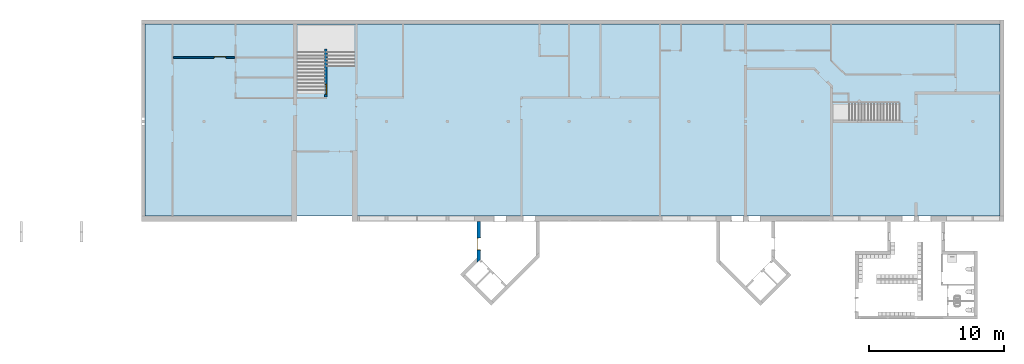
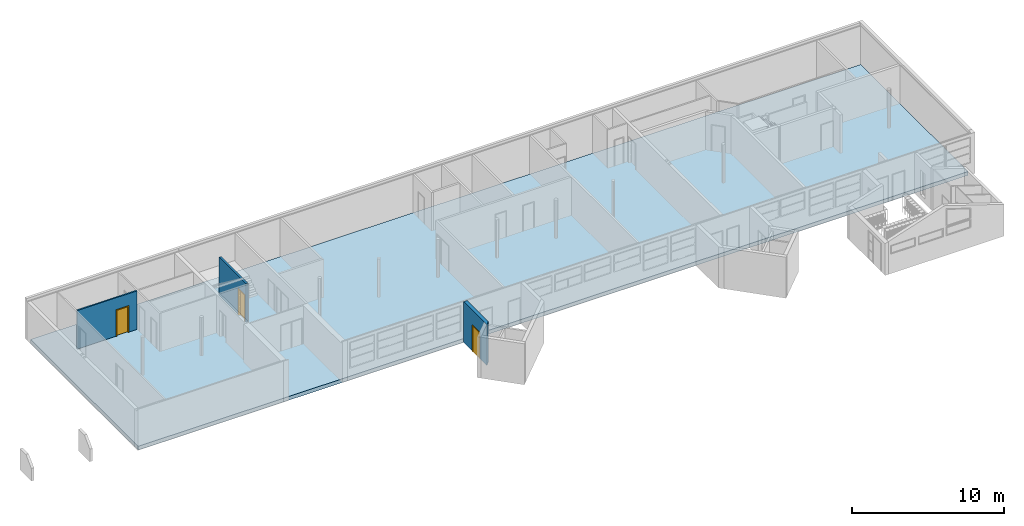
# One storey, part 1 of 25: 3 doors, 3 walls, 1 slab, 3 openings.
"""IFC2X3 building model written with IfcOpenShell, lengths in millimetres."""

from ifc_helpers import new_model, entity, si_unit, converted_unit, derived_unit, money_unit, direction, frame, origin_with_axes, place, context, subcontext, project, spatial, faceted_brep, source, transform, mapped, material, type_object, element, fill, save


model = new_model("IFC2X3")

# Units and contexts
model_context = context("Model", 3, precision=0.01, world=origin_with_axes(), true_north=direction((0.0, 1.0)))
body_context = subcontext(model_context, "Body", "Model", "MODEL_VIEW")
ifc_project = project(units=[si_unit("LENGTHUNIT", "METRE", prefix="MILLI"), si_unit("AREAUNIT", "SQUARE_METRE"), si_unit("VOLUMEUNIT", "CUBIC_METRE"), converted_unit("PLANEANGLEUNIT", "DEGREE", entity("IfcPlaneAngleMeasure", 0.0174532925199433), si_unit("PLANEANGLEUNIT", "RADIAN"), dimensions=[0, 0, 0, 0, 0, 0, 0]), money_unit("USD"), converted_unit("TIMEUNIT", "Year", entity("IfcTimeMeasure", 31557600.0), si_unit("TIMEUNIT", "SECOND"), dimensions=[0, 0, 1, 0, 0, 0, 0]), si_unit("MASSUNIT", "GRAM", prefix="KILO"), si_unit("THERMODYNAMICTEMPERATUREUNIT", "DEGREE_CELSIUS"), si_unit("LUMINOUSINTENSITYUNIT", "LUMEN"), si_unit("ENERGYUNIT", "JOULE", prefix="MEGA"), derived_unit("THERMALCONDUCTANCEUNIT", [(si_unit("POWERUNIT", "WATT"), 1), (si_unit("LENGTHUNIT", "METRE"), -1), (si_unit("THERMODYNAMICTEMPERATUREUNIT", "KELVIN"), -1)]), derived_unit("SPECIFICHEATCAPACITYUNIT", [(si_unit("ENERGYUNIT", "JOULE"), 1), (si_unit("MASSUNIT", "GRAM", prefix="KILO"), -1), (si_unit("THERMODYNAMICTEMPERATUREUNIT", "KELVIN"), -1)]), derived_unit("MASSDENSITYUNIT", [(si_unit("MASSUNIT", "GRAM", prefix="KILO"), 1), (si_unit("VOLUMEUNIT", "CUBIC_METRE"), -1)])], contexts=[model_context])

# Site, building, storey
site_placement = place(None, origin_with_axes())
site = spatial("IfcSite", under=ifc_project, at=site_placement, Name="Site", CompositionType="ELEMENT")
building_placement = place(site_placement, origin_with_axes())
building = spatial("IfcBuilding", under=site, at=building_placement, Name="Building", CompositionType="ELEMENT")
storey_placement = place(building_placement, origin_with_axes())
storey = spatial("IfcBuildingStorey", under=building, at=storey_placement, Name="U ETG", CompositionType="ELEMENT", Elevation=0.0)

# Slab
ifc_material_1 = material(Name="Concrete - Structural")
slab_type = type_object("IfcSlabType", Name="Concrete - Structural 300", PredefinedType="NOTDEFINED")
slab_placement = place(storey_placement, frame((9130.00000000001, 7499.570929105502, 0.0), z_axis=(0.0, 0.0, 1.0), x_axis=(1.0, 0.0, 0.0)))
element("IfcSlab", 1, at=slab_placement, inside=storey, type_object=slab_type, material=ifc_material_1, Name="SLA - 001", PredefinedType="NOTDEFINED", context=body_context, shape_type="Brep", body=[
    faceted_brep([(0.0, 0.0, 0.0), (0.0, 0.0, -300.0), (63219.99999999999, 0.0, -300.0), (63219.99999999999, 0.0, 0.0), (0.0, 14200.4290708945, 0.0), (0.0, 14200.4290708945, -300.0), (63219.99999999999, 14200.4290708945, -300.0), (63219.99999999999, 14200.4290708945, 0.0)], [[[0, 1, 2, 3]], [[4, 5, 1, 0]], [[2, 1, 5, 6]], [[3, 2, 6, 7]], [[4, 0, 3, 7]], [[7, 6, 5, 4]]]),
])

# Wall, opening, door
ifc_material_2 = material(Name="GENERIC - INTERNAL FILLER")
wall_type_1 = type_object("IfcWallType", Name="GENERIC - INTERNAL FILLER 110", PredefinedType="NOTDEFINED")
wall_1_placement = place(storey_placement, frame((11130.0, 19300.0, 0.0), z_axis=(0.0, 0.0, 1.0), x_axis=(1.0, 0.0, 0.0)))
wall_1 = element("IfcWall", 2, at=wall_1_placement, inside=storey, type_object=wall_type_1, material=ifc_material_2, Name="SW - 001", context=body_context, shape_type="Brep", body=[
    faceted_brep([(3110.000000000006, 0.0, 2100.0), (3110.000000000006, 0.0, 0.0), (109.9999999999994, 0.0, 0.0), (109.9999999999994, 0.0, 3100.0), (4660.000000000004, 0.0, 3100.0), (4660.000000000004, 0.0, 0.0), (4010.000000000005, 0.0, 0.0), (4010.000000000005, 0.0, 2100.0), (3110.000000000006, -109.9999999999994, 2100.0), (3110.000000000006, -109.9999999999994, 0.0), (109.9999999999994, -109.9999999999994, 0.0), (109.9999999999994, -109.9999999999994, 3100.0), (4660.000000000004, -109.9999999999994, 3100.0), (4660.000000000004, -109.9999999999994, 0.0), (4010.000000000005, -109.9999999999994, 0.0), (4010.000000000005, -109.9999999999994, 2100.0)], [[[0, 1, 2, 3, 4, 5, 6, 7]], [[1, 0, 8, 9]], [[1, 9, 10, 2]], [[11, 3, 2, 10]], [[12, 4, 3, 11]], [[5, 4, 12, 13]], [[14, 6, 5, 13]], [[7, 6, 14, 15]], [[0, 7, 15, 8]], [[15, 14, 13, 12, 11, 10, 9, 8]]]),
])
opening_1_placement = place(wall_1_placement, frame((3560.000000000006, 0.0, 0.0), z_axis=(0.0, 0.0, 1.0), x_axis=(1.0, 0.0, 0.0)))
opening_1 = element("IfcOpeningElement", 3, at=opening_1_placement, cuts=wall_1, Name="DOO - 002", context=body_context, shape_type="Brep", body=[
    faceted_brep([(-449.9999999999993, 1.000000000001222, 2100.0), (449.9999999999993, 1.000000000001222, 2100.0), (449.9999999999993, 1.000000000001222, 0.0), (-449.9999999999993, 1.000000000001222, 0.0), (-487.0000000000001, 1.000000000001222, 0.0), (-487.0000000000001, 1.000000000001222, 2137.0), (487.0000000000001, 1.000000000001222, 2137.0), (487.0000000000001, 1.000000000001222, 0.0), (-449.9999999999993, 0.0, 0.0), (449.9999999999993, 0.0, 0.0), (449.9999999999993, -109.9999999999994, 0.0), (449.9999999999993, -111.0000000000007, 0.0), (-449.9999999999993, -111.0000000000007, 0.0), (-449.9999999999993, -109.9999999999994, 0.0), (-487.0000000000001, 0.0, 0.0), (-487.0000000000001, 0.0, 2137.0), (487.0000000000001, 0.0, 2137.0), (487.0000000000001, 0.0, 0.0), (449.9999999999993, 0.0, 2100.0), (449.9999999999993, -109.9999999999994, 2100.0), (487.0000000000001, -109.9999999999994, 0.0), (487.0000000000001, -111.0000000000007, 0.0), (487.0000000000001, -111.0000000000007, 2137.0), (-487.0000000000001, -111.0000000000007, 2137.0), (-487.0000000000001, -111.0000000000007, 0.0), (-487.0000000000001, -109.9999999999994, 0.0), (-449.9999999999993, 0.0, 2100.0), (-449.9999999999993, -109.9999999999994, 2100.0), (-487.0000000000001, -109.9999999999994, 2137.0), (487.0000000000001, -109.9999999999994, 2137.0)], [[[0, 1, 2, 3]], [[2, 1, 0, 3, 4, 5, 6, 7]], [[8, 3, 2, 9, 10, 11, 12, 13]], [[3, 8, 14, 4]], [[14, 15, 5, 4]], [[15, 16, 6, 5]], [[16, 17, 7, 6]], [[9, 2, 7, 17]], [[9, 18, 19, 10]], [[11, 10, 20, 21]], [[12, 11, 21, 22, 23, 24]], [[13, 12, 24, 25]], [[26, 8, 13, 27]], [[26, 18, 9, 17, 16, 15, 14, 8]], [[18, 26, 27, 19]], [[10, 19, 27, 13, 25, 28, 29, 20]], [[20, 29, 22, 21]], [[29, 28, 23, 22]], [[28, 25, 24, 23]]]),
])
door_style_1 = type_object("IfcDoorStyle", Name="Dør", ConstructionType="NOTDEFINED", OperationType="SINGLE_SWING_RIGHT", ParameterTakesPrecedence=False, Sizeable=False)
shared_shape_1 = source(origin_with_axes(), body_context, "Body", "Brep", [
    faceted_brep([(-487.0, -129.0, 0.0), (-487.0, -110.0, 0.0), (-437.0, -110.0, 0.0), (-437.0, -129.0, 0.0), (-487.0, -129.0000000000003, 2137.0), (-487.0, -110.0000000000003, 2137.0), (-437.0, -110.0000000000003, 2087.0), (-437.0, -129.0000000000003, 2087.0)], [[[0, 1, 2, 3]], [[4, 5, 1, 0]], [[1, 5, 6, 2]], [[3, 2, 6, 7]], [[0, 3, 7, 4]], [[7, 6, 5, 4]]]),
    faceted_brep([(487.0, -129.0000000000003, 2137.0), (487.0, -110.0000000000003, 2137.0), (437.0, -110.0000000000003, 2087.0), (437.0, -129.0000000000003, 2087.0), (487.0, -129.0, 0.0), (487.0, -110.0, 0.0), (437.0, -110.0, 0.0), (437.0, -129.0, 0.0)], [[[0, 1, 2, 3]], [[4, 5, 1, 0]], [[1, 5, 6, 2]], [[3, 2, 6, 7]], [[0, 3, 7, 4]], [[7, 6, 5, 4]]]),
    faceted_brep([(-487.0, -129.0000000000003, 2137.0), (-487.0, -110.0000000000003, 2137.0), (-437.0, -110.0000000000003, 2087.0), (-437.0, -129.0000000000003, 2087.0), (487.0, -129.0000000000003, 2137.0), (487.0, -110.0000000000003, 2137.0), (437.0, -110.0000000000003, 2087.0), (437.0, -129.0000000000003, 2087.0)], [[[0, 1, 2, 3]], [[4, 5, 1, 0]], [[1, 5, 6, 2]], [[3, 2, 6, 7]], [[0, 3, 7, 4]], [[7, 6, 5, 4]]]),
    faceted_brep([(-487.0, 19.0, 0.0), (-437.0, 19.0, 0.0), (-437.0, 0.0, 0.0), (-487.0, 0.0, 0.0), (-487.0, 18.99999999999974, 2137.0), (-437.0, 18.99999999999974, 2087.0), (-437.0, 0.0, 2087.0), (-487.0, 0.0, 2137.0)], [[[0, 1, 2, 3]], [[0, 4, 5, 1]], [[1, 5, 6, 2]], [[3, 2, 6, 7]], [[4, 0, 3, 7]], [[5, 4, 7, 6]]]),
    faceted_brep([(487.0, 18.99999999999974, 2137.0), (437.0, 18.99999999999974, 2087.0), (437.0, 0.0, 2087.0), (487.0, 0.0, 2137.0), (487.0, 19.0, 0.0), (437.0, 19.0, 0.0), (437.0, 0.0, 0.0), (487.0, 0.0, 0.0)], [[[0, 1, 2, 3]], [[0, 4, 5, 1]], [[1, 5, 6, 2]], [[3, 2, 6, 7]], [[4, 0, 3, 7]], [[5, 4, 7, 6]]]),
    faceted_brep([(-487.0, 18.99999999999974, 2137.0), (-437.0, 18.99999999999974, 2087.0), (-437.0, 0.0, 2087.0), (-487.0, 0.0, 2137.0), (487.0, 18.99999999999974, 2137.0), (437.0, 18.99999999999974, 2087.0), (437.0, 0.0, 2087.0), (487.0, 0.0, 2137.0)], [[[0, 1, 2, 3]], [[0, 4, 5, 1]], [[1, 5, 6, 2]], [[3, 2, 6, 7]], [[4, 0, 3, 7]], [[5, 4, 7, 6]]]),
    faceted_brep([(-450.0, 0.0, 0.0), (-410.0000000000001, 0.0, 0.0), (-410.0000000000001, -115.0, 0.0), (-450.0, -115.0, 0.0), (-450.0, 0.0, 2060.0), (-410.0000000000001, 0.0, 2060.0), (-410.0000000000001, -115.0, 2060.0), (-450.0, -115.0, 2060.0)], [[[0, 1, 2, 3]], [[0, 4, 5, 1]], [[1, 5, 6, 2]], [[3, 2, 6, 7]], [[4, 0, 3, 7]], [[5, 4, 7, 6]]]),
    faceted_brep([(450.0, 0.0, 0.0), (450.0, 0.0, 2060.0), (450.0, -115.0, 2060.0), (450.0, -115.0, 0.0), (410.0000000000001, 0.0, 0.0), (410.0000000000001, 0.0, 2060.0), (410.0000000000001, -115.0, 2060.0), (410.0000000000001, -115.0, 0.0)], [[[0, 1, 2, 3]], [[0, 4, 5, 1]], [[1, 5, 6, 2]], [[3, 2, 6, 7]], [[4, 0, 3, 7]], [[5, 4, 7, 6]]]),
    faceted_brep([(-450.0, 0.0, 2100.0), (-450.0, 0.0, 2060.0), (-450.0, -115.0, 2060.0), (-450.0, -115.0, 2100.0), (450.0, 0.0, 2100.0), (450.0, 0.0, 2060.0), (410.0000000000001, 0.0, 2060.0), (-410.0000000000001, 0.0, 2060.0), (-410.0000000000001, -115.0, 2060.0), (410.0000000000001, -115.0, 2060.0), (450.0, -115.0, 2060.0), (450.0, -115.0, 2100.0)], [[[0, 1, 2, 3]], [[0, 4, 5, 6, 7, 1]], [[1, 7, 8, 2]], [[3, 2, 8, 9, 10, 11]], [[4, 0, 3, 11]], [[5, 4, 11, 10]], [[6, 5, 10, 9]], [[7, 6, 9, 8]]]),
    faceted_brep([(409.9999999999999, 0.0, 0.0), (409.9999999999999, -40.0, 0.0), (-410.0000000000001, -40.0, 0.0), (-410.0000000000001, 0.0, 0.0), (409.9999999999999, 0.0, 2060.0), (409.9999999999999, -40.00000000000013, 2060.0), (-410.0000000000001, -40.00000000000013, 2060.0), (-410.0000000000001, 0.0, 2060.0)], [[[0, 1, 2, 3]], [[4, 5, 1, 0]], [[1, 5, 6, 2]], [[3, 2, 6, 7]], [[0, 3, 7, 4]], [[7, 6, 5, 4]]]),
])
door_1_placement = place(opening_1_placement, frame((-449.9999999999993, 0.0, 0.0), z_axis=(0.0, 0.0, 1.0), x_axis=(1.0, 0.0, 0.0)))
door_1 = element("IfcDoor", 4, at=door_1_placement, inside=storey, type_object=door_style_1, Name="DOO - 002", ObjectType="DOOR", OverallHeight=2100.0, OverallWidth=900.0, context=body_context, shape_type="MappedRepresentation", body=[
    mapped(shared_shape_1, transform((449.9999999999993, 0.0, 0.0))),
])
fill(opening_1, door_1)

ifc_material_3 = material(Name="GENERIC - STRUCTURAL")
wall_type_2 = type_object("IfcWallType", Name="GENERIC - STRUCTURAL 260", PredefinedType="NOTDEFINED")
wall_2_placement = place(storey_placement, frame((33949.5323964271, 7499.570929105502, 0.0), z_axis=(0.0, 0.0, 1.0), x_axis=(0.0, -1.0, 0.0)))
wall_2 = element("IfcWall", 5, at=wall_2_placement, inside=storey, type_object=wall_type_2, material=ifc_material_3, Name="SW - 001", context=body_context, shape_type="Brep", body=[
    faceted_brep([(2499.999999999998, 0.0, 0.0), (2499.999999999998, 0.0, 2100.0), (1599.999999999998, 0.0, 2100.0), (1599.999999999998, 0.0, 0.0), (400.0000000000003, 0.0, 0.0), (400.0000000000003, 0.0, 3300.0), (3199.570929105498, 0.0, 3300.0), (3199.570929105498, 0.0, 0.0), (2499.999999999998, -259.999999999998, 0.0), (2499.999999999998, -259.999999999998, 2100.0), (1599.999999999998, -259.999999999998, 2100.0), (1599.999999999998, -259.999999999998, 0.0), (400.0000000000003, -259.999999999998, 0.0), (400.0000000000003, -259.999999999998, 3300.0), (3459.570929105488, -259.999999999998, 3300.0), (3459.570929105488, -259.999999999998, 0.0)], [[[0, 1, 2, 3, 4, 5, 6, 7]], [[1, 0, 8, 9]], [[2, 1, 9, 10]], [[3, 2, 10, 11]], [[3, 11, 12, 4]], [[12, 13, 5, 4]], [[13, 14, 6, 5]], [[6, 14, 15, 7]], [[8, 0, 7, 15]], [[9, 8, 15, 14, 13, 12, 11, 10]]]),
])
opening_2_placement = place(wall_2_placement, frame((2049.999999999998, 0.0, 0.0), z_axis=(0.0, 0.0, 1.0), x_axis=(1.0, 0.0, 0.0)))
opening_2 = element("IfcOpeningElement", 6, at=opening_2_placement, cuts=wall_2, Name="DOO - 002", context=body_context, shape_type="Brep", body=[
    faceted_brep([(-450.0000000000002, -259.999999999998, 0.0), (-450.0000000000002, -259.999999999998, 2100.0), (-450.0000000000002, 0.0, 2100.0), (-450.0000000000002, 0.0, 0.0), (450.0000000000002, -259.999999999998, 2100.0), (-487.0000000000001, -259.999999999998, 0.0), (-487.0000000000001, -259.999999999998, 2137.0), (487.0000000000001, -259.999999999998, 2137.0), (487.0000000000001, -259.999999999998, 0.0), (450.0000000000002, -259.999999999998, 0.0), (450.0000000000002, 0.0, 2100.0), (450.0000000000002, 0.0, 0.0), (487.0000000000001, 0.0, 0.0), (487.0000000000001, 0.0, 2137.0), (-487.0000000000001, 0.0, 2137.0), (-487.0000000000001, 0.0, 0.0), (-450.0000000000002, -260.9999999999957, 0.0), (-450.0000000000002, 0.9999999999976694, 0.0), (450.0000000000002, 0.9999999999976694, 0.0), (450.0000000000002, -260.9999999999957, 0.0), (-487.0000000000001, -260.9999999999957, 0.0), (-487.0000000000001, -260.9999999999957, 2137.0), (487.0000000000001, -260.9999999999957, 2137.0), (487.0000000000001, -260.9999999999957, 0.0), (487.0000000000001, 0.9999999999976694, 0.0), (487.0000000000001, 0.9999999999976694, 2137.0), (-487.0000000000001, 0.9999999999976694, 2137.0), (-487.0000000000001, 0.9999999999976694, 0.0), (-450.0000000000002, -260.9999999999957, 2100.0), (450.0000000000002, -260.9999999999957, 2100.0)], [[[0, 1, 2, 3]], [[4, 1, 0, 5, 6, 7, 8, 9]], [[1, 4, 10, 2]], [[3, 2, 10, 11, 12, 13, 14, 15]], [[16, 0, 3, 17, 18, 11, 9, 19]], [[0, 16, 20, 5]], [[6, 5, 20, 21]], [[7, 6, 21, 22]], [[8, 7, 22, 23]], [[19, 9, 8, 23]], [[4, 9, 11, 10]], [[11, 18, 24, 12]], [[13, 12, 24, 25]], [[14, 13, 25, 26]], [[15, 14, 26, 27]], [[17, 3, 15, 27]], [[17, 27, 26, 25, 24, 18]], [[28, 16, 19, 29]], [[16, 28, 29, 19, 23, 22, 21, 20]]]),
])
door_style_2 = type_object("IfcDoorStyle", Name="Dør", ConstructionType="NOTDEFINED", OperationType="SINGLE_SWING_RIGHT", ParameterTakesPrecedence=False, Sizeable=False)
shared_shape_2 = source(origin_with_axes(), body_context, "Body", "Brep", [
    faceted_brep([(-450.0, -115.0, 0.0), (-425.0, -115.0, 0.0), (-425.0, -260.0, 0.0), (-450.0, -260.0, 0.0), (-450.0, -115.0000000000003, 2100.0), (-425.0, -115.0000000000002, 2075.0), (-425.0, -260.0000000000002, 2075.0), (-450.0, -260.0000000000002, 2100.0)], [[[0, 1, 2, 3]], [[0, 4, 5, 1]], [[1, 5, 6, 2]], [[3, 2, 6, 7]], [[4, 0, 3, 7]], [[5, 4, 7, 6]]]),
    faceted_brep([(450.0, -115.0000000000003, 2100.0), (425.0, -115.0000000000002, 2075.0), (425.0, -260.0000000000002, 2075.0), (450.0, -260.0000000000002, 2100.0), (450.0, -115.0, 0.0), (425.0, -115.0, 0.0), (425.0, -260.0, 0.0), (450.0, -260.0, 0.0)], [[[0, 1, 2, 3]], [[0, 4, 5, 1]], [[1, 5, 6, 2]], [[3, 2, 6, 7]], [[4, 0, 3, 7]], [[5, 4, 7, 6]]]),
    faceted_brep([(-425.0, -115.0000000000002, 2075.0), (425.0, -115.0000000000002, 2075.0), (425.0, -260.0000000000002, 2075.0), (-425.0, -260.0000000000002, 2075.0), (-450.0, -115.0000000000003, 2100.0), (450.0, -115.0000000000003, 2100.0), (450.0, -260.0000000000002, 2100.0), (-450.0, -260.0000000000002, 2100.0)], [[[0, 1, 2, 3]], [[0, 4, 5, 1]], [[1, 5, 6, 2]], [[3, 2, 6, 7]], [[4, 0, 3, 7]], [[5, 4, 7, 6]]]),
    faceted_brep([(-487.0, -279.0, 0.0), (-487.0, -260.0, 0.0), (-437.0, -260.0, 0.0), (-437.0, -279.0, 0.0), (-487.0, -279.0000000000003, 2137.0), (-487.0, -260.0000000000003, 2137.0), (-437.0, -260.0000000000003, 2087.0), (-437.0, -279.0000000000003, 2087.0)], [[[0, 1, 2, 3]], [[4, 5, 1, 0]], [[1, 5, 6, 2]], [[3, 2, 6, 7]], [[0, 3, 7, 4]], [[7, 6, 5, 4]]]),
    faceted_brep([(487.0, -279.0000000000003, 2137.0), (487.0, -260.0000000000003, 2137.0), (437.0, -260.0000000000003, 2087.0), (437.0, -279.0000000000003, 2087.0), (487.0, -279.0, 0.0), (487.0, -260.0, 0.0), (437.0, -260.0, 0.0), (437.0, -279.0, 0.0)], [[[0, 1, 2, 3]], [[4, 5, 1, 0]], [[1, 5, 6, 2]], [[3, 2, 6, 7]], [[0, 3, 7, 4]], [[7, 6, 5, 4]]]),
    faceted_brep([(-487.0, -279.0000000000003, 2137.0), (-487.0, -260.0000000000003, 2137.0), (-437.0, -260.0000000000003, 2087.0), (-437.0, -279.0000000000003, 2087.0), (487.0, -279.0000000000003, 2137.0), (487.0, -260.0000000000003, 2137.0), (437.0, -260.0000000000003, 2087.0), (437.0, -279.0000000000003, 2087.0)], [[[0, 1, 2, 3]], [[4, 5, 1, 0]], [[1, 5, 6, 2]], [[3, 2, 6, 7]], [[0, 3, 7, 4]], [[7, 6, 5, 4]]]),
    faceted_brep([(-487.0, 19.0, 0.0), (-437.0, 19.0, 0.0), (-437.0, 0.0, 0.0), (-487.0, 0.0, 0.0), (-487.0, 18.99999999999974, 2137.0), (-437.0, 18.99999999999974, 2087.0), (-437.0, 0.0, 2087.0), (-487.0, 0.0, 2137.0)], [[[0, 1, 2, 3]], [[0, 4, 5, 1]], [[1, 5, 6, 2]], [[3, 2, 6, 7]], [[4, 0, 3, 7]], [[5, 4, 7, 6]]]),
    faceted_brep([(487.0, 18.99999999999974, 2137.0), (437.0, 18.99999999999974, 2087.0), (437.0, 0.0, 2087.0), (487.0, 0.0, 2137.0), (487.0, 19.0, 0.0), (437.0, 19.0, 0.0), (437.0, 0.0, 0.0), (487.0, 0.0, 0.0)], [[[0, 1, 2, 3]], [[0, 4, 5, 1]], [[1, 5, 6, 2]], [[3, 2, 6, 7]], [[4, 0, 3, 7]], [[5, 4, 7, 6]]]),
    faceted_brep([(-487.0, 18.99999999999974, 2137.0), (-437.0, 18.99999999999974, 2087.0), (-437.0, 0.0, 2087.0), (-487.0, 0.0, 2137.0), (487.0, 18.99999999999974, 2137.0), (437.0, 18.99999999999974, 2087.0), (437.0, 0.0, 2087.0), (487.0, 0.0, 2137.0)], [[[0, 1, 2, 3]], [[0, 4, 5, 1]], [[1, 5, 6, 2]], [[3, 2, 6, 7]], [[4, 0, 3, 7]], [[5, 4, 7, 6]]]),
    faceted_brep([(-450.0, 0.0, 0.0), (-410.0000000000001, 0.0, 0.0), (-410.0000000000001, -115.0, 0.0), (-450.0, -115.0, 0.0), (-450.0, 0.0, 2060.0), (-410.0000000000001, 0.0, 2060.0), (-410.0000000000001, -115.0, 2060.0), (-450.0, -115.0, 2060.0)], [[[0, 1, 2, 3]], [[0, 4, 5, 1]], [[1, 5, 6, 2]], [[3, 2, 6, 7]], [[4, 0, 3, 7]], [[5, 4, 7, 6]]]),
    faceted_brep([(450.0, 0.0, 0.0), (450.0, 0.0, 2060.0), (450.0, -115.0, 2060.0), (450.0, -115.0, 0.0), (410.0000000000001, 0.0, 0.0), (410.0000000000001, 0.0, 2060.0), (410.0000000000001, -115.0, 2060.0), (410.0000000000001, -115.0, 0.0)], [[[0, 1, 2, 3]], [[0, 4, 5, 1]], [[1, 5, 6, 2]], [[3, 2, 6, 7]], [[4, 0, 3, 7]], [[5, 4, 7, 6]]]),
    faceted_brep([(-450.0, 0.0, 2100.0), (-450.0, 0.0, 2060.0), (-450.0, -115.0, 2060.0), (-450.0, -115.0, 2100.0), (450.0, 0.0, 2100.0), (450.0, 0.0, 2060.0), (410.0000000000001, 0.0, 2060.0), (-410.0000000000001, 0.0, 2060.0), (-410.0000000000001, -115.0, 2060.0), (410.0000000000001, -115.0, 2060.0), (450.0, -115.0, 2060.0), (450.0, -115.0, 2100.0)], [[[0, 1, 2, 3]], [[0, 4, 5, 6, 7, 1]], [[1, 7, 8, 2]], [[3, 2, 8, 9, 10, 11]], [[4, 0, 3, 11]], [[5, 4, 11, 10]], [[6, 5, 10, 9]], [[7, 6, 9, 8]]]),
    faceted_brep([(409.9999999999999, 0.0, 0.0), (409.9999999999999, -40.0, 0.0), (-410.0000000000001, -40.0, 0.0), (-410.0000000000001, 0.0, 0.0), (409.9999999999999, 0.0, 2060.0), (409.9999999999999, -40.00000000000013, 2060.0), (-410.0000000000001, -40.00000000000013, 2060.0), (-410.0000000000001, 0.0, 2060.0)], [[[0, 1, 2, 3]], [[4, 5, 1, 0]], [[1, 5, 6, 2]], [[3, 2, 6, 7]], [[0, 3, 7, 4]], [[7, 6, 5, 4]]]),
])
door_2_placement = place(opening_2_placement, frame((450.0000000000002, 0.0, 0.0), z_axis=(0.0, 0.0, 1.0), x_axis=(-1.0, 0.0, 0.0)))
door_2 = element("IfcDoor", 7, at=door_2_placement, inside=storey, type_object=door_style_2, Name="DOO - 002", ObjectType="DOOR", OverallHeight=2100.0, OverallWidth=900.0, context=body_context, shape_type="MappedRepresentation", body=[
    mapped(shared_shape_2, transform((450.0000000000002, 259.999999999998, 0.0))),
])
fill(opening_2, door_2)

wall_type_3 = type_object("IfcWallType", Name="GENERIC - INTERNAL FILLER 150", PredefinedType="NOTDEFINED")
wall_3_placement = place(storey_placement, frame((22430.00000000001, 16300.0, 0.0), z_axis=(0.0, 0.0, 1.0), x_axis=(0.0, 1.0, 0.0)))
wall_3 = element("IfcWall", 8, at=wall_3_placement, inside=storey, type_object=wall_type_3, material=ifc_material_2, Name="SW - 001", context=body_context, shape_type="Brep", body=[
    faceted_brep([(178.0548009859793, -149.9999999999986, 0.0), (178.0548009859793, -149.9999999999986, 2100.0), (978.0548009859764, -149.9999999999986, 2100.0), (978.0548009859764, -149.9999999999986, 0.0), (3539.754950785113, -149.9999999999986, 0.0), (3539.754950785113, -149.9999999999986, 3100.0), (0.0, -149.9999999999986, 3100.0), (0.0, -149.9999999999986, 0.0), (178.0548009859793, 0.0, 0.0), (178.0548009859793, 0.0, 2100.0), (978.0548009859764, 0.0, 2100.0), (978.0548009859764, 0.0, 0.0), (3539.754950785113, 0.0, 0.0), (3539.754950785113, 0.0, 3100.0), (0.0, 0.0, 3100.0), (0.0, 0.0, 0.0)], [[[0, 1, 2, 3, 4, 5, 6, 7]], [[1, 0, 8, 9]], [[2, 1, 9, 10]], [[3, 2, 10, 11]], [[3, 11, 12, 4]], [[5, 4, 12, 13]], [[5, 13, 14, 6]], [[6, 14, 15, 7]], [[8, 0, 7, 15]], [[9, 8, 15, 14, 13, 12, 11, 10]]]),
])
opening_3_placement = place(wall_3_placement, frame((578.0548009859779, 0.0, 0.0), z_axis=(0.0, 0.0, 1.0), x_axis=(1.0, 0.0, 0.0)))
opening_3 = element("IfcOpeningElement", 9, at=opening_3_placement, cuts=wall_3, Name="DOO - 002", context=body_context, shape_type="Brep", body=[
    faceted_brep([(399.9999999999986, -150.9999999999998, 0.0), (399.9999999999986, -150.9999999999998, 2100.0), (-399.9999999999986, -150.9999999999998, 2100.0), (-399.9999999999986, -150.9999999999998, 0.0), (437.0000000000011, -150.9999999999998, 0.0), (437.0000000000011, -150.9999999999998, 2137.0), (-437.0000000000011, -150.9999999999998, 2137.0), (-437.0000000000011, -150.9999999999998, 0.0), (399.9999999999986, -149.9999999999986, 0.0), (-399.9999999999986, -149.9999999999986, 0.0), (-399.9999999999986, 0.0, 0.0), (-399.9999999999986, 1.000000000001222, 0.0), (399.9999999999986, 1.000000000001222, 0.0), (399.9999999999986, 0.0, 0.0), (437.0000000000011, -149.9999999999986, 0.0), (437.0000000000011, -149.9999999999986, 2137.0), (-437.0000000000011, -149.9999999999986, 2137.0), (-437.0000000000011, -149.9999999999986, 0.0), (-399.9999999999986, -149.9999999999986, 2100.0), (-399.9999999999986, 0.0, 2100.0), (-437.0000000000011, 0.0, 0.0), (-437.0000000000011, 1.000000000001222, 0.0), (-437.0000000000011, 1.000000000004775, 2137.0), (437.0000000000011, 1.000000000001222, 2137.0), (437.0000000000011, 1.000000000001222, 0.0), (437.0000000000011, 0.0, 0.0), (399.9999999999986, -149.9999999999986, 2100.0), (399.9999999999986, 0.0, 2100.0), (437.0000000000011, 0.0, 2137.0), (-437.0000000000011, 0.0, 2137.0)], [[[0, 1, 2, 3]], [[2, 1, 0, 4, 5, 6, 7, 3]], [[8, 0, 3, 9, 10, 11, 12, 13]], [[0, 8, 14, 4]], [[14, 15, 5, 4]], [[15, 16, 6, 5]], [[16, 17, 7, 6]], [[9, 3, 7, 17]], [[9, 18, 19, 10]], [[11, 10, 20, 21]], [[12, 11, 21, 22, 23, 24]], [[13, 12, 24, 25]], [[26, 8, 13, 27]], [[8, 26, 18, 9, 17, 16, 15, 14]], [[18, 26, 27, 19]], [[19, 27, 13, 25, 28, 29, 20, 10]], [[20, 29, 22, 21]], [[29, 28, 23, 22]], [[28, 25, 24, 23]]]),
])
door_style_3 = type_object("IfcDoorStyle", Name="Dør", ConstructionType="NOTDEFINED", OperationType="SINGLE_SWING_LEFT", ParameterTakesPrecedence=False, Sizeable=False)
shared_shape_3 = source(origin_with_axes(), body_context, "Body", "Brep", [
    faceted_brep([(400.0, -115.0, 0.0), (400.0, -150.0, 0.0), (375.0, -150.0, 0.0), (375.0, -115.0, 0.0), (400.0, -115.0000000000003, 2100.0), (400.0, -150.0000000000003, 2100.0), (375.0, -150.0000000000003, 2075.0), (375.0, -115.0000000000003, 2075.0)], [[[0, 1, 2, 3]], [[4, 5, 1, 0]], [[1, 5, 6, 2]], [[3, 2, 6, 7]], [[0, 3, 7, 4]], [[7, 6, 5, 4]]]),
    faceted_brep([(-400.0, -115.0000000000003, 2100.0), (-400.0, -150.0000000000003, 2100.0), (-375.0, -150.0000000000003, 2075.0), (-375.0, -115.0000000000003, 2075.0), (-400.0, -115.0, 0.0), (-400.0, -150.0, 0.0), (-375.0, -150.0, 0.0), (-375.0, -115.0, 0.0)], [[[0, 1, 2, 3]], [[4, 5, 1, 0]], [[1, 5, 6, 2]], [[3, 2, 6, 7]], [[0, 3, 7, 4]], [[7, 6, 5, 4]]]),
    faceted_brep([(375.0, -115.0000000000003, 2075.0), (375.0, -150.0000000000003, 2075.0), (-375.0, -150.0000000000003, 2075.0), (-375.0, -115.0000000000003, 2075.0), (400.0, -115.0000000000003, 2100.0), (400.0, -150.0000000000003, 2100.0), (-400.0, -150.0000000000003, 2100.0), (-400.0, -115.0000000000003, 2100.0)], [[[0, 1, 2, 3]], [[4, 5, 1, 0]], [[1, 5, 6, 2]], [[3, 2, 6, 7]], [[0, 3, 7, 4]], [[7, 6, 5, 4]]]),
    faceted_brep([(437.0, -169.0, 0.0), (387.0, -169.0, 0.0), (387.0, -150.0, 0.0), (437.0, -150.0, 0.0), (437.0, -169.0000000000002, 2137.0), (387.0, -169.0000000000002, 2087.0), (387.0, -150.0000000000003, 2087.0), (437.0, -150.0000000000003, 2137.0)], [[[0, 1, 2, 3]], [[0, 4, 5, 1]], [[1, 5, 6, 2]], [[3, 2, 6, 7]], [[4, 0, 3, 7]], [[5, 4, 7, 6]]]),
    faceted_brep([(-437.0, -169.0000000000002, 2137.0), (-387.0, -169.0000000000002, 2087.0), (-387.0, -150.0000000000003, 2087.0), (-437.0, -150.0000000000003, 2137.0), (-437.0, -169.0, 0.0), (-387.0, -169.0, 0.0), (-387.0, -150.0, 0.0), (-437.0, -150.0, 0.0)], [[[0, 1, 2, 3]], [[0, 4, 5, 1]], [[1, 5, 6, 2]], [[3, 2, 6, 7]], [[4, 0, 3, 7]], [[5, 4, 7, 6]]]),
    faceted_brep([(437.0, -169.0000000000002, 2137.0), (387.0, -169.0000000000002, 2087.0), (387.0, -150.0000000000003, 2087.0), (437.0, -150.0000000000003, 2137.0), (-437.0, -169.0000000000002, 2137.0), (-387.0, -169.0000000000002, 2087.0), (-387.0, -150.0000000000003, 2087.0), (-437.0, -150.0000000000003, 2137.0)], [[[0, 1, 2, 3]], [[0, 4, 5, 1]], [[1, 5, 6, 2]], [[3, 2, 6, 7]], [[4, 0, 3, 7]], [[5, 4, 7, 6]]]),
    faceted_brep([(437.0, 19.0, 0.0), (437.0, 0.0, 0.0), (387.0, 0.0, 0.0), (387.0, 19.0, 0.0), (437.0, 18.99999999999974, 2137.0), (437.0, 0.0, 2137.0), (387.0, 0.0, 2087.0), (387.0, 18.99999999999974, 2087.0)], [[[0, 1, 2, 3]], [[4, 5, 1, 0]], [[1, 5, 6, 2]], [[3, 2, 6, 7]], [[0, 3, 7, 4]], [[7, 6, 5, 4]]]),
    faceted_brep([(-437.0, 18.99999999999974, 2137.0), (-437.0, 0.0, 2137.0), (-387.0, 0.0, 2087.0), (-387.0, 18.99999999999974, 2087.0), (-437.0, 19.0, 0.0), (-437.0, 0.0, 0.0), (-387.0, 0.0, 0.0), (-387.0, 19.0, 0.0)], [[[0, 1, 2, 3]], [[4, 5, 1, 0]], [[1, 5, 6, 2]], [[3, 2, 6, 7]], [[0, 3, 7, 4]], [[7, 6, 5, 4]]]),
    faceted_brep([(437.0000000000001, 18.99999999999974, 2137.0), (437.0000000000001, 0.0, 2137.0), (387.0, 0.0, 2087.0), (387.0, 18.99999999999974, 2087.0), (-437.0000000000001, 18.99999999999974, 2137.0), (-437.0000000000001, 0.0, 2137.0), (-387.0, 0.0, 2087.0), (-387.0, 18.99999999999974, 2087.0)], [[[0, 1, 2, 3]], [[4, 5, 1, 0]], [[1, 5, 6, 2]], [[3, 2, 6, 7]], [[0, 3, 7, 4]], [[7, 6, 5, 4]]]),
    faceted_brep([(400.0, 0.0, 0.0), (400.0, -115.0, 0.0), (360.0000000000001, -115.0, 0.0), (360.0000000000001, 0.0, 0.0), (400.0, 0.0, 2060.0), (400.0, -115.0, 2060.0), (360.0000000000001, -115.0, 2060.0), (360.0000000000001, 0.0, 2060.0)], [[[0, 1, 2, 3]], [[4, 5, 1, 0]], [[1, 5, 6, 2]], [[3, 2, 6, 7]], [[0, 3, 7, 4]], [[7, 6, 5, 4]]]),
    faceted_brep([(-400.0, 0.0, 0.0), (-400.0, -115.0, 0.0), (-400.0, -115.0, 2060.0), (-400.0, 0.0, 2060.0), (-360.0000000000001, 0.0, 0.0), (-360.0000000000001, -115.0, 0.0), (-360.0000000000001, -115.0, 2060.0), (-360.0000000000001, 0.0, 2060.0)], [[[0, 1, 2, 3]], [[4, 5, 1, 0]], [[1, 5, 6, 2]], [[3, 2, 6, 7]], [[0, 3, 7, 4]], [[7, 6, 5, 4]]]),
    faceted_brep([(400.0, 0.0, 2100.0), (400.0, -115.0, 2100.0), (400.0, -115.0, 2060.0), (400.0, 0.0, 2060.0), (-400.0, 0.0, 2100.0), (-400.0, -115.0, 2100.0), (-400.0, -115.0, 2060.0), (-360.0000000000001, -115.0, 2060.0), (360.0000000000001, -115.0, 2060.0), (360.0000000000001, 0.0, 2060.0), (-360.0000000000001, 0.0, 2060.0), (-400.0, 0.0, 2060.0)], [[[0, 1, 2, 3]], [[4, 5, 1, 0]], [[1, 5, 6, 7, 8, 2]], [[3, 2, 8, 9]], [[0, 3, 9, 10, 11, 4]], [[11, 6, 5, 4]], [[10, 7, 6, 11]], [[9, 8, 7, 10]]]),
    faceted_brep([(-359.9999999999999, 0.0, 0.0), (360.0000000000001, 0.0, 0.0), (360.0000000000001, -40.0, 0.0), (-359.9999999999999, -40.0, 0.0), (-359.9999999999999, 0.0, 2060.0), (360.0000000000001, 0.0, 2060.0), (360.0000000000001, -40.00000000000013, 2060.0), (-359.9999999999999, -40.00000000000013, 2060.0)], [[[0, 1, 2, 3]], [[0, 4, 5, 1]], [[1, 5, 6, 2]], [[3, 2, 6, 7]], [[4, 0, 3, 7]], [[5, 4, 7, 6]]]),
])
door_3_placement = place(opening_3_placement, frame((399.9999999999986, 0.0, 0.0), z_axis=(0.0, 0.0, 1.0), x_axis=(-1.0, 0.0, 0.0)))
door_3 = element("IfcDoor", 10, at=door_3_placement, inside=storey, type_object=door_style_3, Name="DOO - 002", ObjectType="DOOR", OverallHeight=2100.0, OverallWidth=800.0, context=body_context, shape_type="MappedRepresentation", body=[
    mapped(shared_shape_3, transform((399.9999999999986, 149.9999999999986, 0.0))),
])
fill(opening_3, door_3)

save(model, "model.ifc")
